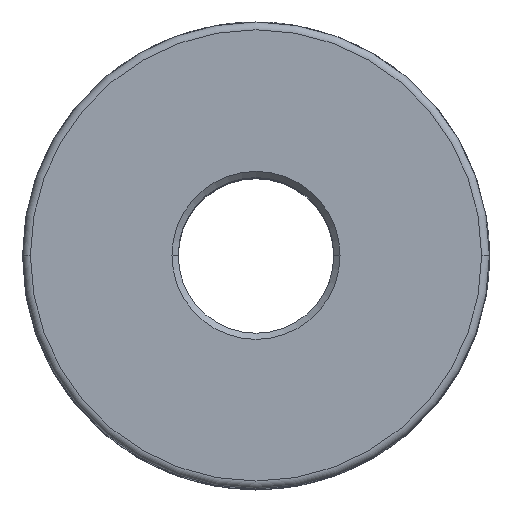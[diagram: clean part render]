
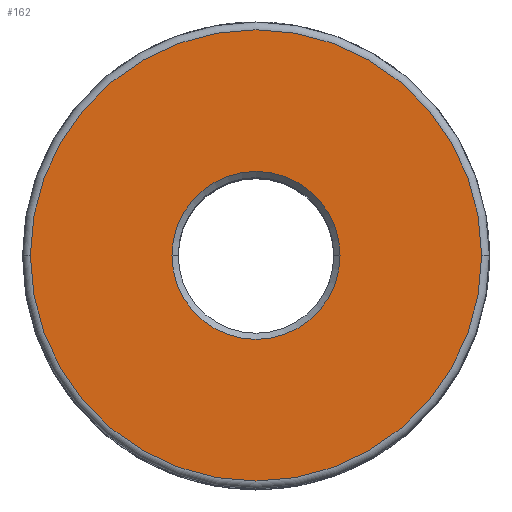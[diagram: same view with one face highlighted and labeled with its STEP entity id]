
A CAD part, top view. The second image highlights one B-rep face of the part: STEP entity #162.
In plain terms, the highlighted planar face has unit normal (0, 0, 1).
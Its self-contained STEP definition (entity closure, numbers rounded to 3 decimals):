
#26 = EDGE_CURVE ( 'NONE', #571, #497, #854, .T. ) ;
#27 = ORIENTED_EDGE ( 'NONE', *, *, #580, .T. ) ;
#76 = EDGE_LOOP ( 'NONE', ( #128, #129 ) ) ;
#128 = ORIENTED_EDGE ( 'NONE', *, *, #568, .T. ) ;
#129 = ORIENTED_EDGE ( 'NONE', *, *, #156, .T. ) ;
#156 = EDGE_CURVE ( 'NONE', #506, #462, #1224, .T. ) ;
#159 = EDGE_LOOP ( 'NONE', ( #27, #161 ) ) ;
#161 = ORIENTED_EDGE ( 'NONE', *, *, #26, .T. ) ;
#162 = ADVANCED_FACE ( 'NONE', ( #1200, #1148 ), #1234, .T. ) ;
#462 = VERTEX_POINT ( 'NONE', #2040 ) ;
#497 = VERTEX_POINT ( 'NONE', #2222 ) ;
#506 = VERTEX_POINT ( 'NONE', #2235 ) ;
#568 = EDGE_CURVE ( 'NONE', #462, #506, #2439, .T. ) ;
#571 = VERTEX_POINT ( 'NONE', #2376 ) ;
#580 = EDGE_CURVE ( 'NONE', #497, #571, #2468, .T. ) ;
#852 = CARTESIAN_POINT ( 'NONE',  ( 0., 0., 0. ) ) ;
#853 = AXIS2_PLACEMENT_3D ( 'NONE', #852, #904, #903 ) ;
#854 = CIRCLE ( 'NONE', #853, 10.8 ) ;
#903 = DIRECTION ( 'NONE',  ( 1., 0., 0. ) ) ;
#904 = DIRECTION ( 'NONE',  ( 0., 0., -1. ) ) ;
#1148 = FACE_BOUND ( 'NONE', #159, .T. ) ;
#1167 = DIRECTION ( 'NONE',  ( 1., 0., 0. ) ) ;
#1168 = DIRECTION ( 'NONE',  ( 0., 0., 1. ) ) ;
#1200 = FACE_OUTER_BOUND ( 'NONE', #76, .T. ) ;
#1222 = CARTESIAN_POINT ( 'NONE',  ( 0., 0., 0. ) ) ;
#1223 = AXIS2_PLACEMENT_3D ( 'NONE', #1222, #1168, #1167 ) ;
#1224 = CIRCLE ( 'NONE', #1223, 29. ) ;
#1230 = DIRECTION ( 'NONE',  ( 1., 0., 0. ) ) ;
#1231 = DIRECTION ( 'NONE',  ( 0., 0., 1. ) ) ;
#1232 = CARTESIAN_POINT ( 'NONE',  ( -31., -31., 0. ) ) ;
#1233 = AXIS2_PLACEMENT_3D ( 'NONE', #1232, #1231, #1230 ) ;
#1234 = PLANE ( 'NONE',  #1233 ) ;
#2040 = CARTESIAN_POINT ( 'NONE',  ( 29., 0., 0. ) ) ;
#2222 = CARTESIAN_POINT ( 'NONE',  ( 10.8, 0., 0. ) ) ;
#2235 = CARTESIAN_POINT ( 'NONE',  ( -29., 0., 0. ) ) ;
#2376 = CARTESIAN_POINT ( 'NONE',  ( -10.8, 0., 0. ) ) ;
#2416 = DIRECTION ( 'NONE',  ( 1., 0., 0. ) ) ;
#2436 = DIRECTION ( 'NONE',  ( 0., 0., 1. ) ) ;
#2437 = CARTESIAN_POINT ( 'NONE',  ( 0., 0., 0. ) ) ;
#2438 = AXIS2_PLACEMENT_3D ( 'NONE', #2437, #2436, #2416 ) ;
#2439 = CIRCLE ( 'NONE', #2438, 29. ) ;
#2453 = CARTESIAN_POINT ( 'NONE',  ( 0., 0., 0. ) ) ;
#2465 = DIRECTION ( 'NONE',  ( 1., 0., 0. ) ) ;
#2466 = DIRECTION ( 'NONE',  ( 0., 0., -1. ) ) ;
#2467 = AXIS2_PLACEMENT_3D ( 'NONE', #2453, #2466, #2465 ) ;
#2468 = CIRCLE ( 'NONE', #2467, 10.8 ) ;
